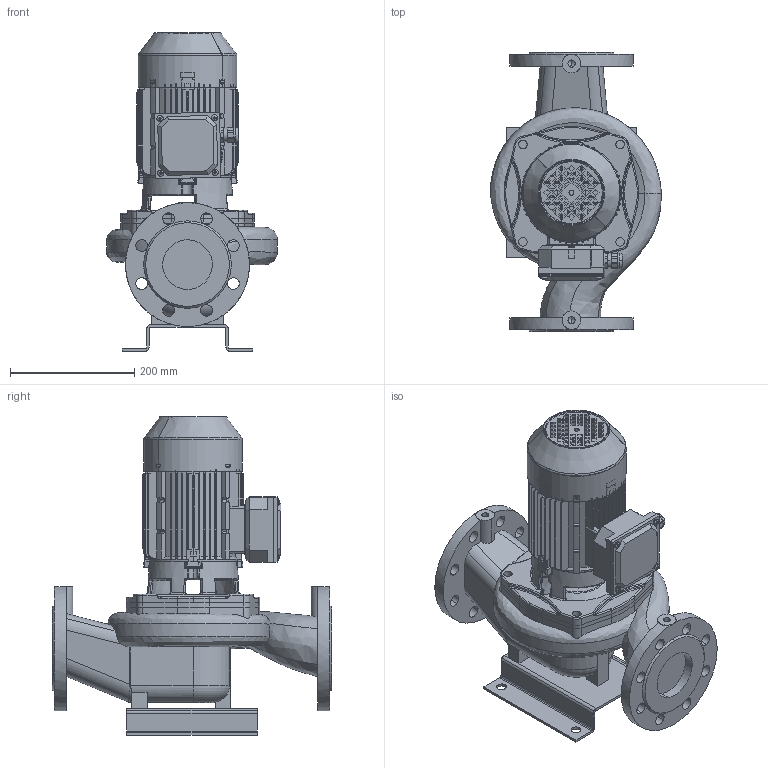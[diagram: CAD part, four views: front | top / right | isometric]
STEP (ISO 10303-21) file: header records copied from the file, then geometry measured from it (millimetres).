
FILE_DESCRIPTION(('STEP AP214'),'1');
FILE_NAME('export.stp','2018-05-28T12:17:54',(' '),(' '),'Spatial InterOp 3D',' ',' ');
FILE_SCHEMA(('AUTOMOTIVE_DESIGN { 1 0 10303 214 1 1 1 1 }'));
Length unit declared in the file: millimetre
Products named in the file (22): W_ALS10814750KP80; V_TLL65AB80A1102; V_PPAL1081; V_JALKA35973; 160022; 160003; V_MKP80-2_F19; 160141; 160137; 160138; 160139; 160140; Koura_Ale_M5; Plug_Blind_M20; Sealing_Plug_M20; DIN_7985-M5X8; DIN_7985-M5X12; 480032; 480031___; 480034; 480033___; 160133
Assembly tree (24 placements, depth 4):
  W_ALS10814750KP80
    V_TLL65AB80A1102
    V_PPAL1081
    V_JALKA35973
    V_MKP80-2_F19
      160022
        160003
      160141
        160137
        160138
        160139
        160140
        Koura_Ale_M5
        Plug_Blind_M20
        Sealing_Plug_M20
        DIN_7985-M5X8
        DIN_7985-M5X12  x4
      480032
        480031___
      480034
        480033___
      160133
Bounding box: 275.57 x 450 x 514.11 mm (x, y, z)
Volume: 8620527.2 mm3; surface area: 1336353.7 mm2
Topology: 19 solids, 19 shells, 2865 faces, 7524 edges, 4679 vertices
Faces by surface type: plane 1074, cylinder 935, bspline 363, torus 282, cone 147, sphere 64
Entity records: 114486 total; most frequent: CARTESIAN_POINT 43246, ORIENTED_EDGE 14616, DIRECTION 13365, EDGE_CURVE 7308, AXIS2_PLACEMENT_3D 5081, VERTEX_POINT 4583, LINE 3203, VECTOR 3203
